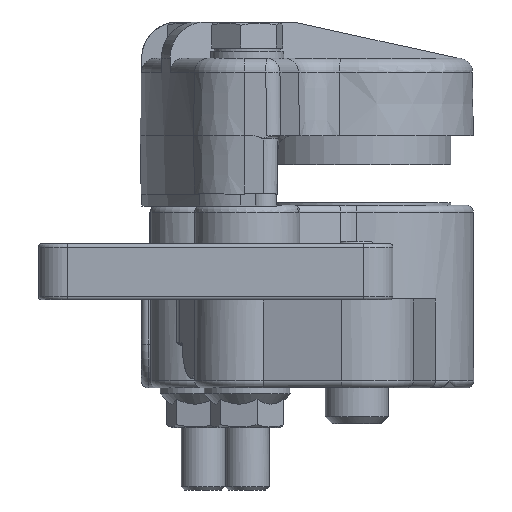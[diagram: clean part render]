
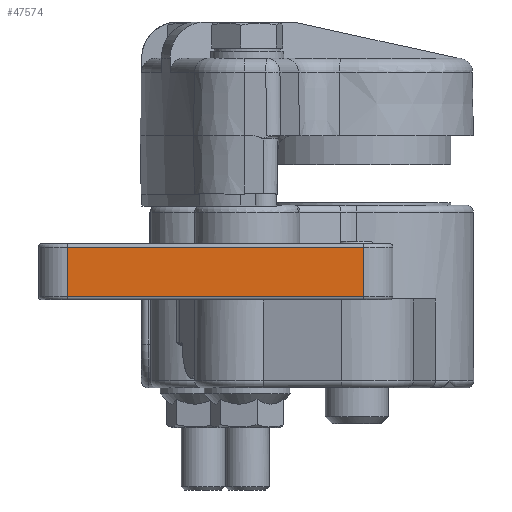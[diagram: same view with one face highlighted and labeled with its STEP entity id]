
A CAD part, left-side view. The second image highlights one B-rep face of the part: STEP entity #47574.
In plain terms, the highlighted planar face has unit normal (-1, 0, 0) by its records, which use the part's own axes.
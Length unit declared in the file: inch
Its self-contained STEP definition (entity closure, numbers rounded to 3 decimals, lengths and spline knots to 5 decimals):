
#1005 = VERTEX_POINT ( 'NONE', #30686 ) ;
#3837 = DIRECTION ( 'NONE',  ( 0., 1., 0. ) ) ;
#5146 = VECTOR ( 'NONE', #3837, 39.37008 ) ;
#6134 = EDGE_CURVE ( 'NONE', #37706, #46934, #9805, .T. ) ;
#8439 = LINE ( 'NONE', #23704, #42219 ) ;
#9805 = LINE ( 'NONE', #35859, #21384 ) ;
#15702 = ORIENTED_EDGE ( 'NONE', *, *, #20962, .T. ) ;
#16827 = ORIENTED_EDGE ( 'NONE', *, *, #33616, .T. ) ;
#20962 = EDGE_CURVE ( 'NONE', #1005, #46934, #33876, .T. ) ;
#21384 = VECTOR ( 'NONE', #31603, 39.37008 ) ;
#23028 = DIRECTION ( 'NONE',  ( 0., -1., 0. ) ) ;
#23587 = EDGE_LOOP ( 'NONE', ( #31876, #16827, #32980, #15702 ) ) ;
#23704 = CARTESIAN_POINT ( 'NONE',  ( -3.875, -1.9, -0.81 ) ) ;
#23950 = DIRECTION ( 'NONE',  ( 0., 0., 1. ) ) ;
#27033 = FACE_OUTER_BOUND ( 'NONE', #23587, .T. ) ;
#28511 = LINE ( 'NONE', #44780, #49382 ) ;
#28567 = CARTESIAN_POINT ( 'NONE',  ( -3.875, -1.9, -0.78 ) ) ;
#29003 = DIRECTION ( 'NONE',  ( 0., -1., 0. ) ) ;
#30686 = CARTESIAN_POINT ( 'NONE',  ( -3.875, -1.9, -0.36 ) ) ;
#31406 = VERTEX_POINT ( 'NONE', #28567 ) ;
#31603 = DIRECTION ( 'NONE',  ( 0., 0., 1. ) ) ;
#31876 = ORIENTED_EDGE ( 'NONE', *, *, #6134, .F. ) ;
#32980 = ORIENTED_EDGE ( 'NONE', *, *, #34008, .T. ) ;
#33616 = EDGE_CURVE ( 'NONE', #37706, #31406, #28511, .T. ) ;
#33876 = LINE ( 'NONE', #37648, #5146 ) ;
#34008 = EDGE_CURVE ( 'NONE', #31406, #1005, #8439, .T. ) ;
#34783 = CARTESIAN_POINT ( 'NONE',  ( -3.875, 0.63, -0.81 ) ) ;
#35859 = CARTESIAN_POINT ( 'NONE',  ( -3.875, 0.63, -0.81 ) ) ;
#37648 = CARTESIAN_POINT ( 'NONE',  ( -3.875, 0.63, -0.36 ) ) ;
#37706 = VERTEX_POINT ( 'NONE', #42212 ) ;
#38794 = DIRECTION ( 'NONE',  ( 1., 0., 0. ) ) ;
#41396 = AXIS2_PLACEMENT_3D ( 'NONE', #34783, #38794, #23028 ) ;
#42212 = CARTESIAN_POINT ( 'NONE',  ( -3.875, 0.63, -0.78 ) ) ;
#42219 = VECTOR ( 'NONE', #23950, 39.37008 ) ;
#42302 = PLANE ( 'NONE',  #41396 ) ;
#44780 = CARTESIAN_POINT ( 'NONE',  ( -3.875, -1.9, -0.78 ) ) ;
#46934 = VERTEX_POINT ( 'NONE', #47660 ) ;
#47574 = ADVANCED_FACE ( 'NONE', ( #27033 ), #42302, .F. ) ;
#47660 = CARTESIAN_POINT ( 'NONE',  ( -3.875, 0.63, -0.36 ) ) ;
#49382 = VECTOR ( 'NONE', #29003, 39.37008 ) ;
